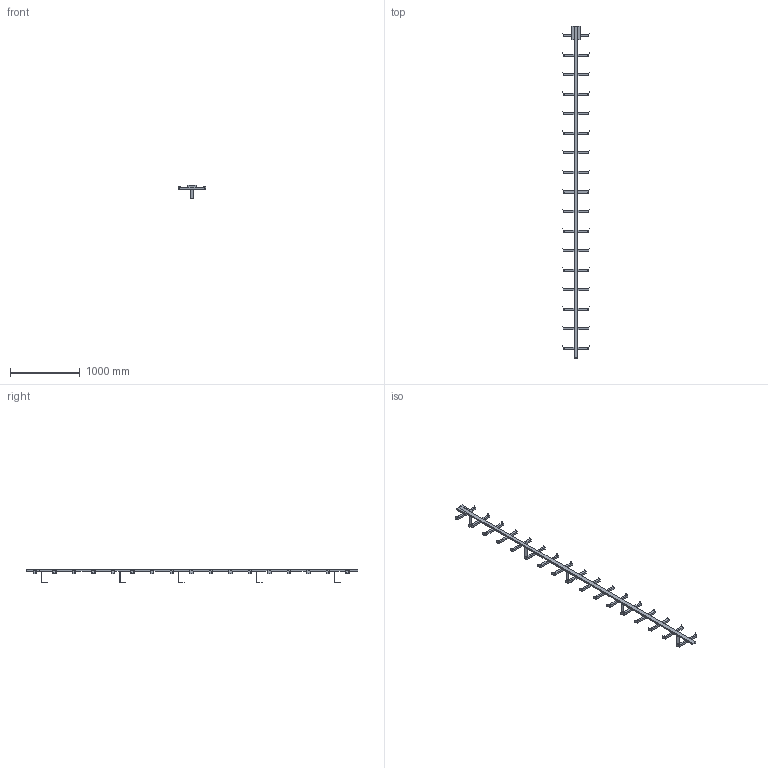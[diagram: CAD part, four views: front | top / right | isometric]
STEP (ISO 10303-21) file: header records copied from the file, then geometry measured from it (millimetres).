
FILE_DESCRIPTION((''),'2;1');
FILE_NAME('017_000114','2017-08-01T',('set'),('HUBER SE'),'PRO/ENGINEER BY PARAMETRIC TECHNOLOGY CORPORATION, 2015280','PRO/ENGINEER BY PARAMETRIC TECHNOLOGY CORPORATION, 2015280','');
FILE_SCHEMA(('CONFIG_CONTROL_DESIGN'));
Length unit declared in the file: millimetre
Products named in the file (1): 017_000114
Bounding box: 394 x 4760 x 195 mm (x, y, z)
Volume: 12713767.9 mm3; surface area: 1738292 mm2
Topology: 1 solids, 1 shells, 467 faces, 1411 edges, 951 vertices
Faces by surface type: plane 467
Entity records: 15286 total; most frequent: CARTESIAN_POINT 2870, ORIENTED_EDGE 2620, DIRECTION 2300, VECTOR 1364, LINE 1364, EDGE_CURVE 1310, VERTEX_POINT 850, EDGE_LOOP 472
